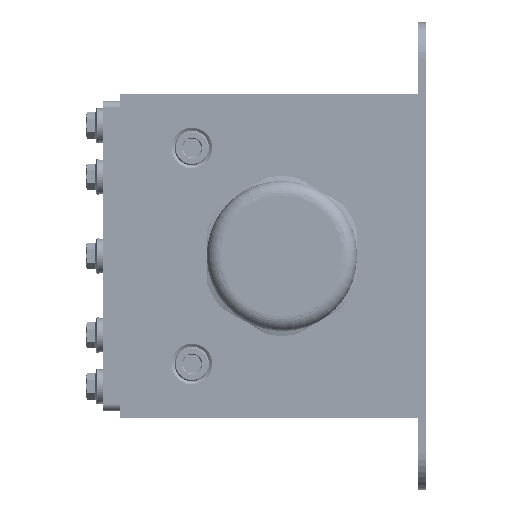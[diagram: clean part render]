
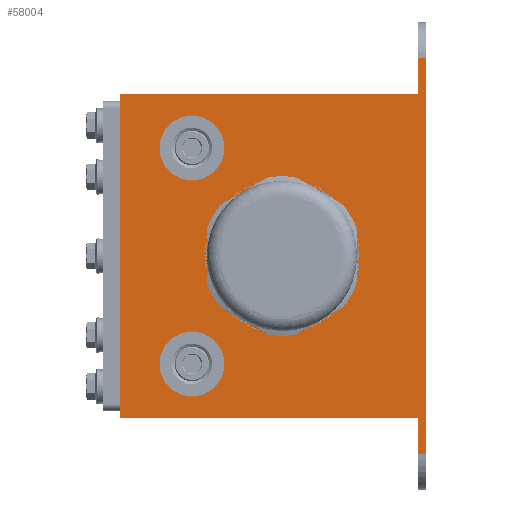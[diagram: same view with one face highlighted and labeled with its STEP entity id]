
A CAD part, left-side view. The second image highlights one B-rep face of the part: STEP entity #58004.
In plain terms, the highlighted planar face has unit normal (-1, 0, 0).
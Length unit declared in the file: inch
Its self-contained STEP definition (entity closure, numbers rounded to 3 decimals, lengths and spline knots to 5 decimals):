
#1177 = VERTEX_POINT ( 'NONE', #55488 ) ;
#1435 = CARTESIAN_POINT ( 'NONE',  ( -6.25, 4.25, -2.25 ) ) ;
#3312 = LINE ( 'NONE', #13921, #40781 ) ;
#3549 = VECTOR ( 'NONE', #76452, 39.37008 ) ;
#3965 = DIRECTION ( 'NONE',  ( 0., -1., 0. ) ) ;
#4871 = CARTESIAN_POINT ( 'NONE',  ( -6.25, 3.25, -1.5 ) ) ;
#5864 = CARTESIAN_POINT ( 'NONE',  ( -6.25, 4.25, -2.25 ) ) ;
#8238 = VERTEX_POINT ( 'NONE', #5864 ) ;
#10706 = ORIENTED_EDGE ( 'NONE', *, *, #86616, .F. ) ;
#11149 = VERTEX_POINT ( 'NONE', #122695 ) ;
#11236 = DIRECTION ( 'NONE',  ( 0., -1., 0. ) ) ;
#13921 = CARTESIAN_POINT ( 'NONE',  ( -6.25, 1.51921, -2.75 ) ) ;
#15737 = EDGE_LOOP ( 'NONE', ( #90489, #60557, #122551, #109374, #124695, #105355, #28166, #126094 ) ) ;
#18069 = LINE ( 'NONE', #58948, #126009 ) ;
#18360 = EDGE_CURVE ( 'NONE', #57430, #1177, #112667, .T. ) ;
#20452 = AXIS2_PLACEMENT_3D ( 'NONE', #67144, #86939, #107404 ) ;
#20494 = EDGE_CURVE ( 'NONE', #128905, #83740, #25618, .T. ) ;
#21170 = CARTESIAN_POINT ( 'NONE',  ( -6.25, 2., 0. ) ) ;
#21253 = VERTEX_POINT ( 'NONE', #39730 ) ;
#22417 = LINE ( 'NONE', #76274, #23473 ) ;
#23473 = VECTOR ( 'NONE', #65723, 39.37008 ) ;
#24336 = DIRECTION ( 'NONE',  ( 0., 0., 1. ) ) ;
#25618 = LINE ( 'NONE', #116683, #45563 ) ;
#26351 = FACE_OUTER_BOUND ( 'NONE', #15737, .T. ) ;
#26583 = VERTEX_POINT ( 'NONE', #86212 ) ;
#28166 = ORIENTED_EDGE ( 'NONE', *, *, #116506, .F. ) ;
#29416 = VERTEX_POINT ( 'NONE', #118260 ) ;
#31670 = EDGE_LOOP ( 'NONE', ( #10706, #92933 ) ) ;
#32037 = DIRECTION ( 'NONE',  ( 0., 0., 1. ) ) ;
#36876 = CARTESIAN_POINT ( 'NONE',  ( -6.25, 4.25, 2.25 ) ) ;
#39730 = CARTESIAN_POINT ( 'NONE',  ( -6.25, 0.105, -2.75 ) ) ;
#40781 = VECTOR ( 'NONE', #3965, 39.37008 ) ;
#41682 = VECTOR ( 'NONE', #53531, 39.37008 ) ;
#41930 = EDGE_CURVE ( 'NONE', #115257, #77664, #103618, .T. ) ;
#43619 = CIRCLE ( 'NONE', #87905, 0.94488 ) ;
#45447 = FACE_BOUND ( 'NONE', #117390, .T. ) ;
#45563 = VECTOR ( 'NONE', #65856, 39.37008 ) ;
#51055 = CARTESIAN_POINT ( 'NONE',  ( -6.25, 0., 2.75 ) ) ;
#52021 = CIRCLE ( 'NONE', #20452, 0.375 ) ;
#52395 = EDGE_CURVE ( 'NONE', #29416, #128905, #107895, .T. ) ;
#53073 = DIRECTION ( 'NONE',  ( -1., 0., 0. ) ) ;
#53531 = DIRECTION ( 'NONE',  ( 0., -1., 0. ) ) ;
#55488 = CARTESIAN_POINT ( 'NONE',  ( -6.25, 3.25, 1.875 ) ) ;
#55547 = EDGE_CURVE ( 'NONE', #87152, #83740, #86235, .T. ) ;
#55976 = DIRECTION ( 'NONE',  ( 0., 0., 1. ) ) ;
#57430 = VERTEX_POINT ( 'NONE', #124070 ) ;
#58004 = ADVANCED_FACE ( 'NONE', ( #96272, #45447, #26351, #85710 ), #66584, .F. ) ;
#58378 = DIRECTION ( 'NONE',  ( 0., 0., 1. ) ) ;
#58948 = CARTESIAN_POINT ( 'NONE',  ( -6.25, 4.25, 2.25 ) ) ;
#59841 = AXIS2_PLACEMENT_3D ( 'NONE', #126592, #116051, #55976 ) ;
#60108 = DIRECTION ( 'NONE',  ( -1., 0., 0. ) ) ;
#60557 = ORIENTED_EDGE ( 'NONE', *, *, #20494, .F. ) ;
#61860 = DIRECTION ( 'NONE',  ( -1., 0., 0. ) ) ;
#62240 = CARTESIAN_POINT ( 'NONE',  ( -6.25, 3.25, -1.875 ) ) ;
#62449 = VECTOR ( 'NONE', #65802, 39.37008 ) ;
#64692 = EDGE_CURVE ( 'NONE', #11149, #107024, #43619, .T. ) ;
#65723 = DIRECTION ( 'NONE',  ( 0., 0., 1. ) ) ;
#65802 = DIRECTION ( 'NONE',  ( 0., 0., 1. ) ) ;
#65856 = DIRECTION ( 'NONE',  ( 0., -1., 0. ) ) ;
#66584 = PLANE ( 'NONE',  #129428 ) ;
#67144 = CARTESIAN_POINT ( 'NONE',  ( -6.25, 3.25, -1.5 ) ) ;
#67194 = ORIENTED_EDGE ( 'NONE', *, *, #108181, .F. ) ;
#69576 = CARTESIAN_POINT ( 'NONE',  ( -6.25, 0.105, 2.25 ) ) ;
#70233 = EDGE_CURVE ( 'NONE', #107024, #11149, #102036, .T. ) ;
#74639 = EDGE_CURVE ( 'NONE', #8238, #26583, #86993, .T. ) ;
#76274 = CARTESIAN_POINT ( 'NONE',  ( -6.25, 0.105, -2.25 ) ) ;
#76355 = CARTESIAN_POINT ( 'NONE',  ( -6.25, 0., 2.25 ) ) ;
#76452 = DIRECTION ( 'NONE',  ( 0., 0., 1. ) ) ;
#77143 = DIRECTION ( 'NONE',  ( 1., 0., 0. ) ) ;
#77664 = VERTEX_POINT ( 'NONE', #62240 ) ;
#80184 = CARTESIAN_POINT ( 'NONE',  ( -6.25, 0., -2.75 ) ) ;
#82413 = CARTESIAN_POINT ( 'NONE',  ( -6.25, 3.25, 1.5 ) ) ;
#83740 = VERTEX_POINT ( 'NONE', #51055 ) ;
#84693 = VERTEX_POINT ( 'NONE', #92324 ) ;
#85710 = FACE_BOUND ( 'NONE', #31670, .T. ) ;
#86212 = CARTESIAN_POINT ( 'NONE',  ( -6.25, 4.25, 2.25 ) ) ;
#86235 = LINE ( 'NONE', #76355, #62449 ) ;
#86616 = EDGE_CURVE ( 'NONE', #1177, #57430, #106371, .T. ) ;
#86939 = DIRECTION ( 'NONE',  ( -1., 0., 0. ) ) ;
#86993 = LINE ( 'NONE', #87637, #3549 ) ;
#87152 = VERTEX_POINT ( 'NONE', #80184 ) ;
#87637 = CARTESIAN_POINT ( 'NONE',  ( -6.25, 4.25, 2.25 ) ) ;
#87665 = DIRECTION ( 'NONE',  ( 0., 0., -1. ) ) ;
#87905 = AXIS2_PLACEMENT_3D ( 'NONE', #21170, #60108, #120176 ) ;
#89844 = CARTESIAN_POINT ( 'NONE',  ( -6.25, 2., 0.94488 ) ) ;
#90240 = EDGE_CURVE ( 'NONE', #26583, #29416, #18069, .T. ) ;
#90489 = ORIENTED_EDGE ( 'NONE', *, *, #55547, .T. ) ;
#92324 = CARTESIAN_POINT ( 'NONE',  ( -6.25, 0.105, -2.25 ) ) ;
#92933 = ORIENTED_EDGE ( 'NONE', *, *, #18360, .F. ) ;
#94780 = ORIENTED_EDGE ( 'NONE', *, *, #64692, .F. ) ;
#95209 = CARTESIAN_POINT ( 'NONE',  ( -6.25, 3.25, -1.125 ) ) ;
#96272 = FACE_BOUND ( 'NONE', #121176, .T. ) ;
#101570 = AXIS2_PLACEMENT_3D ( 'NONE', #4871, #53073, #32037 ) ;
#102036 = CIRCLE ( 'NONE', #59841, 0.94488 ) ;
#103364 = DIRECTION ( 'NONE',  ( 0., 0., 1. ) ) ;
#103618 = CIRCLE ( 'NONE', #101570, 0.375 ) ;
#105355 = ORIENTED_EDGE ( 'NONE', *, *, #122357, .T. ) ;
#106365 = AXIS2_PLACEMENT_3D ( 'NONE', #82413, #122686, #24336 ) ;
#106371 = CIRCLE ( 'NONE', #116935, 0.375 ) ;
#106406 = VECTOR ( 'NONE', #58378, 39.37008 ) ;
#107024 = VERTEX_POINT ( 'NONE', #89844 ) ;
#107404 = DIRECTION ( 'NONE',  ( 0., 0., 1. ) ) ;
#107895 = LINE ( 'NONE', #69576, #106406 ) ;
#108181 = EDGE_CURVE ( 'NONE', #77664, #115257, #52021, .T. ) ;
#109374 = ORIENTED_EDGE ( 'NONE', *, *, #90240, .F. ) ;
#112667 = CIRCLE ( 'NONE', #106365, 0.375 ) ;
#112999 = LINE ( 'NONE', #1435, #41682 ) ;
#113298 = CARTESIAN_POINT ( 'NONE',  ( -6.25, 3.25, 1.5 ) ) ;
#115257 = VERTEX_POINT ( 'NONE', #95209 ) ;
#116051 = DIRECTION ( 'NONE',  ( -1., 0., 0. ) ) ;
#116506 = EDGE_CURVE ( 'NONE', #21253, #84693, #22417, .T. ) ;
#116683 = CARTESIAN_POINT ( 'NONE',  ( -6.25, 1.51921, 2.75 ) ) ;
#116935 = AXIS2_PLACEMENT_3D ( 'NONE', #113298, #61860, #103364 ) ;
#117390 = EDGE_LOOP ( 'NONE', ( #124494, #94780 ) ) ;
#118260 = CARTESIAN_POINT ( 'NONE',  ( -6.25, 0.105, 2.25 ) ) ;
#119578 = EDGE_CURVE ( 'NONE', #21253, #87152, #3312, .T. ) ;
#120176 = DIRECTION ( 'NONE',  ( 0., 0., 1. ) ) ;
#121176 = EDGE_LOOP ( 'NONE', ( #129040, #67194 ) ) ;
#122357 = EDGE_CURVE ( 'NONE', #8238, #84693, #112999, .T. ) ;
#122551 = ORIENTED_EDGE ( 'NONE', *, *, #52395, .F. ) ;
#122686 = DIRECTION ( 'NONE',  ( -1., 0., 0. ) ) ;
#122695 = CARTESIAN_POINT ( 'NONE',  ( -6.25, 2., -0.94488 ) ) ;
#123200 = CARTESIAN_POINT ( 'NONE',  ( -6.25, 0.105, 2.75 ) ) ;
#124070 = CARTESIAN_POINT ( 'NONE',  ( -6.25, 3.25, 1.125 ) ) ;
#124494 = ORIENTED_EDGE ( 'NONE', *, *, #70233, .F. ) ;
#124695 = ORIENTED_EDGE ( 'NONE', *, *, #74639, .F. ) ;
#126009 = VECTOR ( 'NONE', #11236, 39.37008 ) ;
#126094 = ORIENTED_EDGE ( 'NONE', *, *, #119578, .T. ) ;
#126592 = CARTESIAN_POINT ( 'NONE',  ( -6.25, 2., 0. ) ) ;
#128905 = VERTEX_POINT ( 'NONE', #123200 ) ;
#129040 = ORIENTED_EDGE ( 'NONE', *, *, #41930, .F. ) ;
#129428 = AXIS2_PLACEMENT_3D ( 'NONE', #36876, #77143, #87665 ) ;
